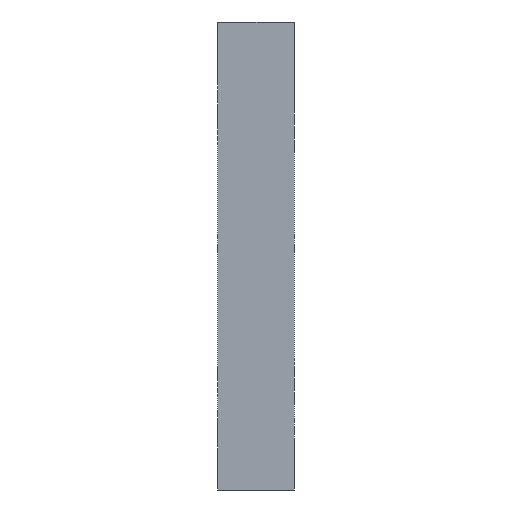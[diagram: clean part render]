
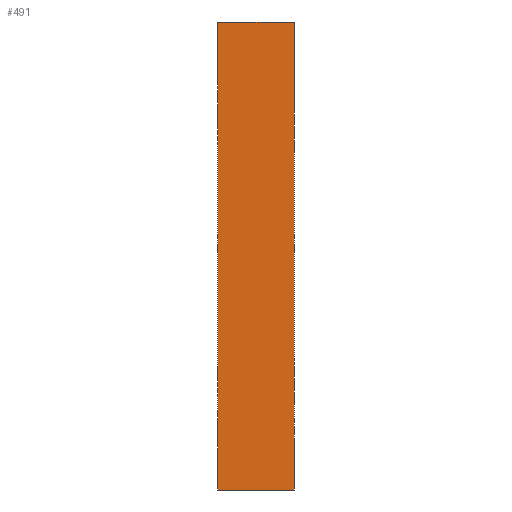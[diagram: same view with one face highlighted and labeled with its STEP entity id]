
A CAD part, left-side view. The second image highlights one B-rep face of the part: STEP entity #491.
In plain terms, the highlighted planar face has unit normal (-1, 0, 0).
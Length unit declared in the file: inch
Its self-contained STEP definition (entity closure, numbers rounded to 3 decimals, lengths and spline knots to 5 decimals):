
#59 = DIRECTION ( 'NONE',  ( 0., 0., 1. ) ) ;
#71 = CARTESIAN_POINT ( 'NONE',  ( -14.32432, 0., -2.96892 ) ) ;
#196 = CARTESIAN_POINT ( 'NONE',  ( -14.32432, 1.06, -2.96892 ) ) ;
#379 = VERTEX_POINT ( 'NONE', #2935 ) ;
#405 = ORIENTED_EDGE ( 'NONE', *, *, #1704, .F. ) ;
#488 = VECTOR ( 'NONE', #59, 39.37008 ) ;
#491 = ADVANCED_FACE ( 'NONE', ( #2303 ), #3236, .F. ) ;
#497 = EDGE_LOOP ( 'NONE', ( #917, #405, #1676, #516 ) ) ;
#516 = ORIENTED_EDGE ( 'NONE', *, *, #992, .T. ) ;
#571 = LINE ( 'NONE', #71, #488 ) ;
#885 = CARTESIAN_POINT ( 'NONE',  ( -14.32432, 1.06, -2.96892 ) ) ;
#894 = VERTEX_POINT ( 'NONE', #1108 ) ;
#917 = ORIENTED_EDGE ( 'NONE', *, *, #1334, .T. ) ;
#992 = EDGE_CURVE ( 'NONE', #3459, #379, #1765, .T. ) ;
#1108 = CARTESIAN_POINT ( 'NONE',  ( -14.32432, 1.06, 3.53108 ) ) ;
#1269 = VECTOR ( 'NONE', #1451, 39.37008 ) ;
#1334 = EDGE_CURVE ( 'NONE', #379, #3120, #571, .T. ) ;
#1451 = DIRECTION ( 'NONE',  ( 0., 0., 1. ) ) ;
#1676 = ORIENTED_EDGE ( 'NONE', *, *, #2976, .F. ) ;
#1704 = EDGE_CURVE ( 'NONE', #894, #3120, #3116, .T. ) ;
#1765 = LINE ( 'NONE', #2041, #1812 ) ;
#1812 = VECTOR ( 'NONE', #1970, 39.37008 ) ;
#1970 = DIRECTION ( 'NONE',  ( 0., -1., 0. ) ) ;
#2041 = CARTESIAN_POINT ( 'NONE',  ( -14.32432, 1.06, -2.96892 ) ) ;
#2213 = CARTESIAN_POINT ( 'NONE',  ( -14.32432, 1.06, 3.53108 ) ) ;
#2303 = FACE_OUTER_BOUND ( 'NONE', #497, .T. ) ;
#2334 = VECTOR ( 'NONE', #3046, 39.37008 ) ;
#2455 = LINE ( 'NONE', #885, #1269 ) ;
#2935 = CARTESIAN_POINT ( 'NONE',  ( -14.32432, 0., -2.96892 ) ) ;
#2976 = EDGE_CURVE ( 'NONE', #3459, #894, #2455, .T. ) ;
#3046 = DIRECTION ( 'NONE',  ( 0., -1., 0. ) ) ;
#3116 = LINE ( 'NONE', #2213, #2334 ) ;
#3120 = VERTEX_POINT ( 'NONE', #3347 ) ;
#3236 = PLANE ( 'NONE',  #3343 ) ;
#3343 = AXIS2_PLACEMENT_3D ( 'NONE', #196, #3608, #3613 ) ;
#3347 = CARTESIAN_POINT ( 'NONE',  ( -14.32432, 0., 3.53108 ) ) ;
#3369 = CARTESIAN_POINT ( 'NONE',  ( -14.32432, 1.06, -2.96892 ) ) ;
#3459 = VERTEX_POINT ( 'NONE', #3369 ) ;
#3608 = DIRECTION ( 'NONE',  ( 1., 0., 0. ) ) ;
#3613 = DIRECTION ( 'NONE',  ( 0., 0., -1. ) ) ;
